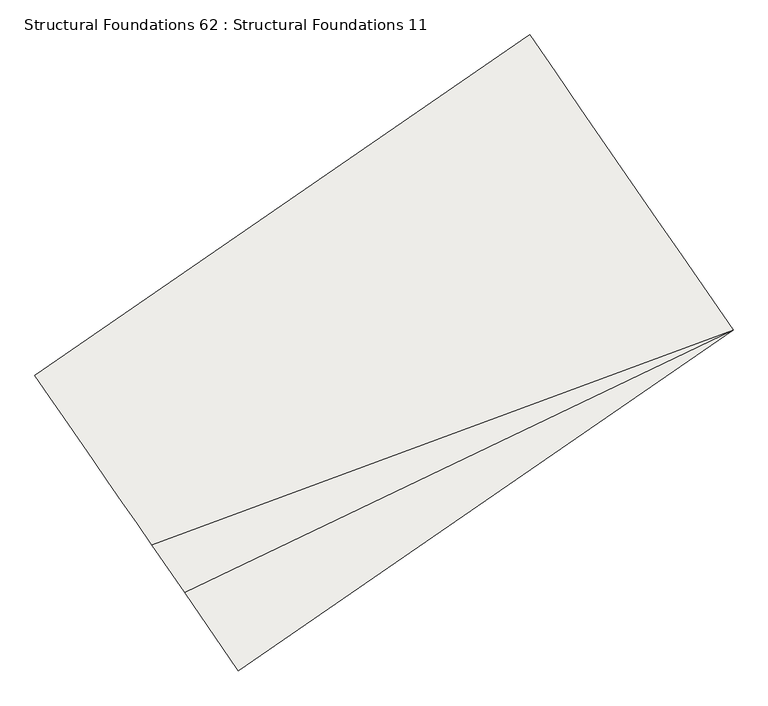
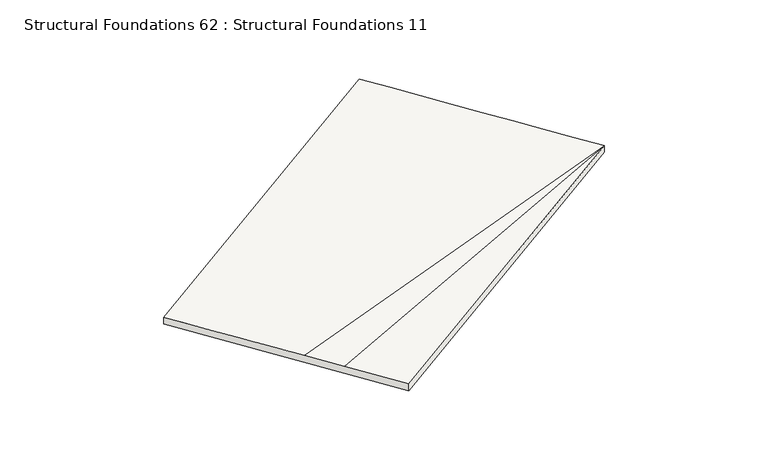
"""IFC4 building model written with IfcOpenShell, lengths in millimetres: slab geometry, Structural Foundations 62 : Structural Foundations 11."""

from ifc_helpers import new_model, si_unit, frame, origin, place, context, project, spatial, source, transform, mapped, element, save
from ifc_brep_helpers import plane_surface, spline_surface, advanced_brep


def structural_foundations_62_structural_foundations_11_b41bca1a(model_context):
    return source(origin(), model_context, "Body", "AdvancedBrep", [
        advanced_brep(
        [(-347674.5082295, -440841.9982816, 633821.9999999), (-345745.7954662, -443642.0102602, 633821.9999999), (-345745.7954662, -443642.0102602, 633721.9999999), (-347674.5082295, -440841.9982816, 633721.9999999), (-352362.4862836, -444071.1855757, 633774.0), (-352362.4862836, -444071.1855757, 633674.0), (-350433.7735205, -446871.197554, 633673.9999998), (-350433.7735205, -446871.197554, 633773.9999998), (-350944.3151336, -446130.0179137, 633773.9999998), (-351256.3127869, -445677.0747989, 633773.9999999)],
        [
            (0, 1),
            (1, 2),
            (2, 3),
            (3, 0),
            (4, 5),
            (5, 6),
            (6, 7),
            (7, 8),
            (8, 9),
            (9, 4),
            (9, 1),
            (0, 4),
            (8, 1),
            (7, 1),
            (6, 2),
            (5, 3),
        ],
        [
            plane_surface(frame((-346710.1518478, -442242.0042709, 633771.9999999), z_axis=(0.8235329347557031, 0.5672684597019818, 0.0), x_axis=(0.5672684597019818, -0.8235329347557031, 0.0))),
            plane_surface(frame((-351298.8579214, -445615.3098287, 633740.6666666), z_axis=(-0.8235329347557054, -0.5672684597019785, 0.0), x_axis=(0.5672684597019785, -0.8235329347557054, -7.956790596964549e-11))),
            spline_surface(1, 1, [[(-352362.4862836, -444071.1855757, 633774.0), (-347674.5082295, -440841.9982816, 633821.9999999)], [(-351256.3127869, -445677.0747989, 633773.9999999), (-345745.7954662, -443642.0102602, 633821.9999999)]], [2, 2], [2, 2], [0.0, 1.0], [0.0, 1.0]),
            plane_surface(frame((-351100.3139602, -445903.5463563, 633773.9999999), z_axis=(-0.006943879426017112, -0.004783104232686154, 0.9999644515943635), x_axis=(0.567268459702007, -0.8235329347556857, -7.963601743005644e-11))),
            plane_surface(frame((-350689.0443271, -446500.6077339, 633773.9999998), z_axis=(-0.0069438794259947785, -0.004783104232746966, 0.9999644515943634), x_axis=(0.5672684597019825, -0.8235329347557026, -7.969902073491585e-11))),
            plane_surface(frame((-350433.7735205, -446871.197554, 633723.9999998), z_axis=(0.5672684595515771, -0.8235329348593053, 0.0), x_axis=(0.0, 0.0, -1.0))),
            spline_surface(1, 1, [[(-350433.7735205, -446871.197554, 633673.9999998), (-345745.7954662, -443642.0102602, 633721.9999999)], [(-352362.4862836, -444071.1855757, 633674.0), (-347674.5082295, -440841.9982816, 633721.9999999)]], [2, 2], [2, 2], [0.0, 1.0], [0.0, 1.0]),
            plane_surface(frame((-352362.4862836, -444071.1855757, 633724.0), z_axis=(-0.5672684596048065, 0.8235329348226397, 0.0), x_axis=(0.0, 0.0, 1.0))),
        ],
        [
            (0, [[1, 2, 3, 4]]),
            (1, [[5, 6, 7, 8, 9, 10]]),
            (2, [[-10, 11, -1, 12]]),
            (3, [[-9, 13, -11]]),
            (4, [[-8, 14, -13]]),
            (5, [[-7, 15, -2, -14]]),
            (6, [[-6, 16, -3, -15]]),
            (7, [[-5, -12, -4, -16]]),
        ],
    ),
    ])


if __name__ == "__main__":
    model = new_model("IFC4")
    model_context = context("Model", 3, world=origin())
    ifc_project = project(units=[si_unit("LENGTHUNIT", "METRE", prefix="MILLI")], contexts=[model_context])
    site = spatial("IfcSite", under=ifc_project)
    building = spatial("IfcBuilding", under=site)
    placement = place(None, origin())
    structural_foundations_62_structural_foundations_11_shape = structural_foundations_62_structural_foundations_11_b41bca1a(model_context)
    element("IfcSlab", 1, ObjectType="Structural Foundations 62 : Structural Foundations 11", at=placement, inside=building, context=model_context, shape_type="MappedRepresentation", body=[
        mapped(structural_foundations_62_structural_foundations_11_shape, transform((0.0, 0.0, 0.0), x_axis=(1.0, 0.0, 0.0), y_axis=(0.0, 1.0, 0.0), z_axis=(0.0, 0.0, 1.0))),
    ])
    save(model, "model.ifc")
